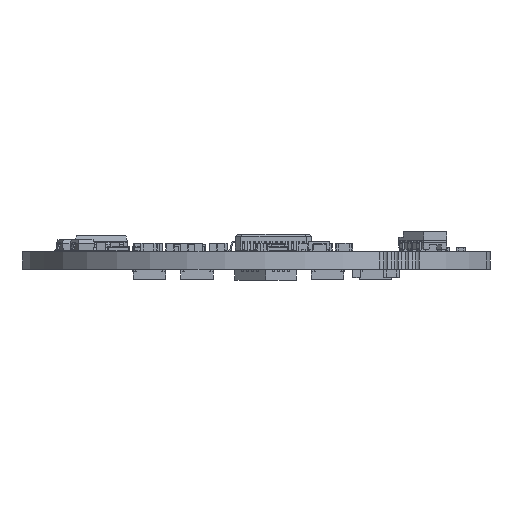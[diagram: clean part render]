
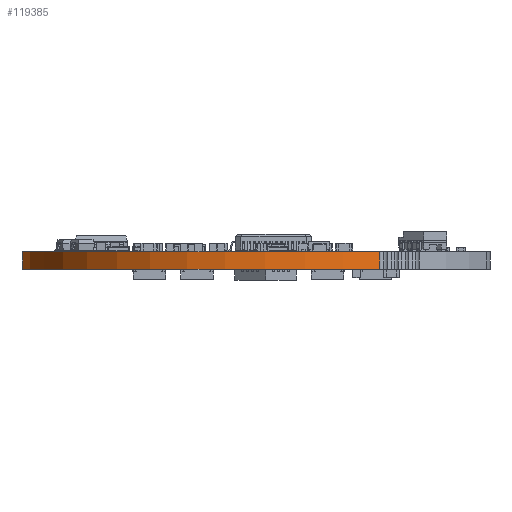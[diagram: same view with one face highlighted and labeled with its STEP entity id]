
A CAD part, left-side view. The second image highlights one B-rep face of the part: STEP entity #119385.
In plain terms, the highlighted cylindrical face has radius 22.4 mm (diameter 44.8 mm), a partial arc.
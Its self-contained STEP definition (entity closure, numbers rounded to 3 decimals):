
#19469 = CYLINDRICAL_SURFACE ( 'NONE', #101696, 22.4 ) ;
#30405 = VECTOR ( 'NONE', #187950, 1000. ) ;
#45209 = CARTESIAN_POINT ( 'NONE',  ( 19.735, -18.926, -1.64 ) ) ;
#49126 = LINE ( 'NONE', #52501, #191856 ) ;
#52501 = CARTESIAN_POINT ( 'NONE',  ( 17.579, 3.37, -1.64 ) ) ;
#52780 = AXIS2_PLACEMENT_3D ( 'NONE', #45209, #120407, #69156 ) ;
#56410 = CARTESIAN_POINT ( 'NONE',  ( -0.047, -29.434, -1.64 ) ) ;
#62044 = VERTEX_POINT ( 'NONE', #189511 ) ;
#69156 = DIRECTION ( 'NONE',  ( 0.42, -0.908, 0. ) ) ;
#76491 = VERTEX_POINT ( 'NONE', #217638 ) ;
#101696 = AXIS2_PLACEMENT_3D ( 'NONE', #142571, #299773, #274153 ) ;
#105391 = DIRECTION ( 'NONE',  ( 0., 0., 1. ) ) ;
#112706 = LINE ( 'NONE', #56410, #30405 ) ;
#119385 = ADVANCED_FACE ( 'NONE', ( #120255 ), #19469, .T. ) ;
#119423 = CARTESIAN_POINT ( 'NONE',  ( 17.579, 3.37, 0. ) ) ;
#120255 = FACE_OUTER_BOUND ( 'NONE', #156013, .T. ) ;
#120407 = DIRECTION ( 'NONE',  ( 0., 0., 1. ) ) ;
#142571 = CARTESIAN_POINT ( 'NONE',  ( 19.735, -18.926, -1.64 ) ) ;
#156013 = EDGE_LOOP ( 'NONE', ( #179529, #180613, #314314, #300408 ) ) ;
#166411 = CARTESIAN_POINT ( 'NONE',  ( -0.047, -29.434, -1.64 ) ) ;
#170059 = EDGE_CURVE ( 'NONE', #62044, #216354, #303819, .T. ) ;
#179529 = ORIENTED_EDGE ( 'NONE', *, *, #170059, .T. ) ;
#180227 = VERTEX_POINT ( 'NONE', #119423 ) ;
#180613 = ORIENTED_EDGE ( 'NONE', *, *, #304925, .T. ) ;
#187950 = DIRECTION ( 'NONE',  ( 0., 0., 1. ) ) ;
#189511 = CARTESIAN_POINT ( 'NONE',  ( 17.579, 3.37, -1.64 ) ) ;
#191856 = VECTOR ( 'NONE', #105391, 1000. ) ;
#194271 = EDGE_CURVE ( 'NONE', #62044, #180227, #49126, .T. ) ;
#216354 = VERTEX_POINT ( 'NONE', #166411 ) ;
#217638 = CARTESIAN_POINT ( 'NONE',  ( -0.047, -29.434, 0. ) ) ;
#243344 = AXIS2_PLACEMENT_3D ( 'NONE', #251028, #280036, #298943 ) ;
#251028 = CARTESIAN_POINT ( 'NONE',  ( 19.735, -18.926, 0. ) ) ;
#274153 = DIRECTION ( 'NONE',  ( 0.42, -0.908, 0. ) ) ;
#280036 = DIRECTION ( 'NONE',  ( 0., 0., 1. ) ) ;
#298943 = DIRECTION ( 'NONE',  ( 0.42, -0.908, 0. ) ) ;
#299773 = DIRECTION ( 'NONE',  ( 0., 0., -1. ) ) ;
#300408 = ORIENTED_EDGE ( 'NONE', *, *, #194271, .F. ) ;
#303819 = CIRCLE ( 'NONE', #52780, 22.4 ) ;
#304925 = EDGE_CURVE ( 'NONE', #216354, #76491, #112706, .T. ) ;
#305118 = EDGE_CURVE ( 'NONE', #180227, #76491, #319695, .T. ) ;
#314314 = ORIENTED_EDGE ( 'NONE', *, *, #305118, .F. ) ;
#319695 = CIRCLE ( 'NONE', #243344, 22.4 ) ;
